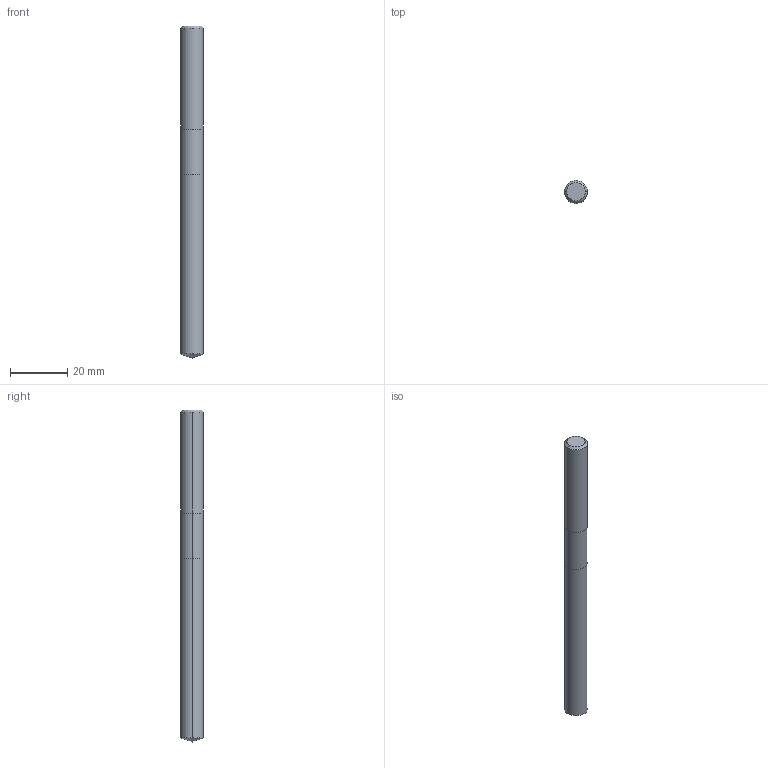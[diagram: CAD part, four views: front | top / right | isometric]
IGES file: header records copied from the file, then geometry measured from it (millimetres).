
Start section: 3D InterOp IGES (v. 2020 1.0.1), Spatial Corp. Copyright (c) 1999-2017.
Global section: file name: WZB12225_7.9.igs; native system: Spatial Corp.; preprocessor: 3D InterOp GENERIC/IGES 3.0; author: Noname; organization: Noname; date: 20201104.104713; units: metre
Bounding box: 8 x 8 x 116 mm (x, y, z)
Surface area: 2945.3 mm2 (no closed solid volume)
Topology: 0 solids, 0 shells, 14 faces, 54 edges, 52 vertices
Faces by surface type: revolution 12, extrusion 2
